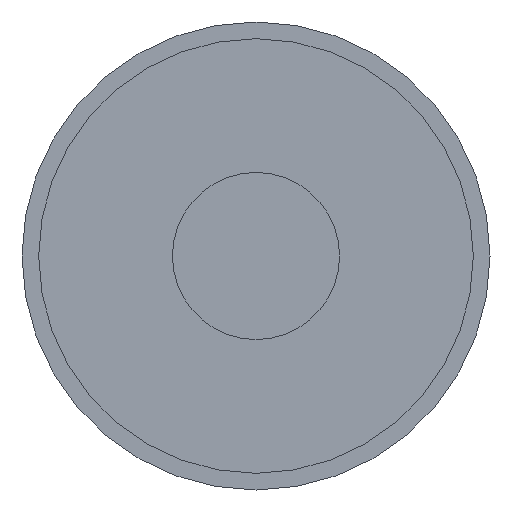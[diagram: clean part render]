
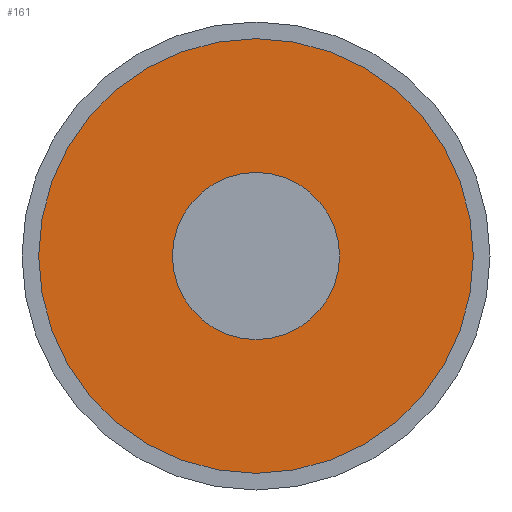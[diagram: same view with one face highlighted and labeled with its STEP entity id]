
A CAD part, front view. The second image highlights one B-rep face of the part: STEP entity #161.
In plain terms, the highlighted planar face has unit normal (0, -1, 0).
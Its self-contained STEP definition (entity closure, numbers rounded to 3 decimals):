
#38=FACE_BOUND('',#60,.T.);
#45=FACE_OUTER_BOUND('',#59,.T.);
#59=EDGE_LOOP('',(#125));
#60=EDGE_LOOP('',(#126));
#75=CIRCLE('',#191,6.5);
#76=CIRCLE('',#193,2.5);
#87=VERTEX_POINT('',#277);
#88=VERTEX_POINT('',#281);
#100=EDGE_CURVE('',#87,#87,#75,.T.);
#102=EDGE_CURVE('',#88,#88,#76,.T.);
#125=ORIENTED_EDGE('',*,*,#100,.T.);
#126=ORIENTED_EDGE('',*,*,#102,.T.);
#152=PLANE('',#194);
#161=ADVANCED_FACE('',(#45,#38),#152,.T.);
#191=AXIS2_PLACEMENT_3D('',#279,#223,#224);
#193=AXIS2_PLACEMENT_3D('',#283,#228,#229);
#194=AXIS2_PLACEMENT_3D('',#284,#230,#231);
#223=DIRECTION('center_axis',(0.,-1.,0.));
#224=DIRECTION('ref_axis',(-1.,0.,0.));
#228=DIRECTION('center_axis',(0.,1.,0.));
#229=DIRECTION('ref_axis',(-1.,0.,0.));
#230=DIRECTION('center_axis',(0.,-1.,0.));
#231=DIRECTION('ref_axis',(0.,0.,-1.));
#277=CARTESIAN_POINT('',(6.5,0.,0.));
#279=CARTESIAN_POINT('Origin',(0.,0.,0.));
#281=CARTESIAN_POINT('',(2.5,0.,0.));
#283=CARTESIAN_POINT('Origin',(0.,0.,0.));
#284=CARTESIAN_POINT('Origin',(0.,0.,0.));
